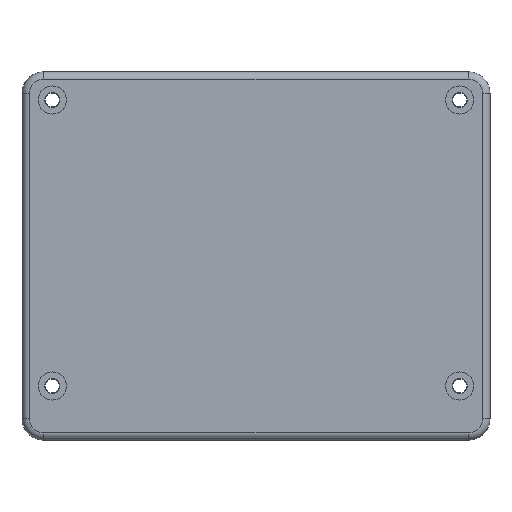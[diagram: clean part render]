
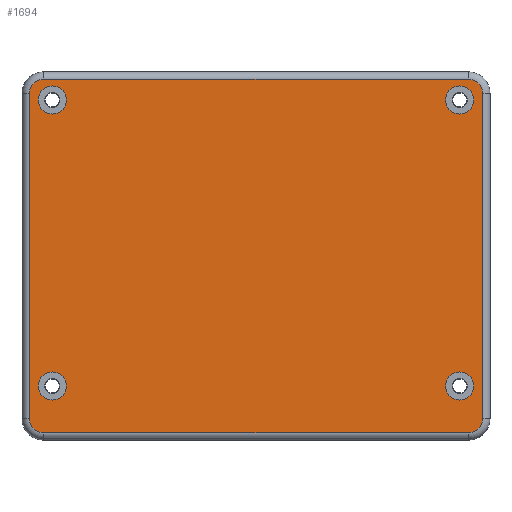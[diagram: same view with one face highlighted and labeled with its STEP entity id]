
A CAD part, front view. The second image highlights one B-rep face of the part: STEP entity #1694.
In plain terms, the highlighted planar face has unit normal (0, -1, 0).
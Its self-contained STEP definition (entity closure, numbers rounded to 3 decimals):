
#2=DIRECTION('',(1.,0.,0.));
#3=VECTOR('',#2,98.);
#4=CARTESIAN_POINT('',(-49.,-16.5,-40.8));
#5=LINE('',#4,#3);
#6=CARTESIAN_POINT('',(-49.,-16.5,-37.5));
#7=DIRECTION('',(0.,-1.,0.));
#8=DIRECTION('',(-1.,0.,0.));
#9=AXIS2_PLACEMENT_3D('',#6,#7,#8);
#11=DIRECTION('',(0.,0.,-1.));
#12=VECTOR('',#11,75.);
#13=CARTESIAN_POINT('',(-52.3,-16.5,37.5));
#14=LINE('',#13,#12);
#15=CARTESIAN_POINT('',(-49.,-16.5,37.5));
#16=DIRECTION('',(0.,-1.,0.));
#17=DIRECTION('',(0.,0.,1.));
#18=AXIS2_PLACEMENT_3D('',#15,#16,#17);
#20=DIRECTION('',(-1.,0.,0.));
#21=VECTOR('',#20,98.);
#22=CARTESIAN_POINT('',(49.,-16.5,40.8));
#23=LINE('',#22,#21);
#24=CARTESIAN_POINT('',(49.,-16.5,37.5));
#25=DIRECTION('',(0.,-1.,0.));
#26=DIRECTION('',(1.,0.,0.));
#27=AXIS2_PLACEMENT_3D('',#24,#25,#26);
#29=DIRECTION('',(0.,0.,1.));
#30=VECTOR('',#29,75.);
#31=CARTESIAN_POINT('',(52.3,-16.5,-37.5));
#32=LINE('',#31,#30);
#33=CARTESIAN_POINT('',(49.,-16.5,-37.5));
#34=DIRECTION('',(0.,-1.,0.));
#35=DIRECTION('',(0.,0.,-1.));
#36=AXIS2_PLACEMENT_3D('',#33,#34,#35);
#38=CARTESIAN_POINT('',(-47.,-16.5,-30.));
#39=DIRECTION('',(0.,-1.,0.));
#40=DIRECTION('',(-1.,0.,0.));
#41=AXIS2_PLACEMENT_3D('',#38,#39,#40);
#43=CARTESIAN_POINT('',(-47.,-16.5,-30.));
#44=DIRECTION('',(0.,-1.,0.));
#45=DIRECTION('',(1.,0.,0.));
#46=AXIS2_PLACEMENT_3D('',#43,#44,#45);
#48=CARTESIAN_POINT('',(47.,-16.5,-30.));
#49=DIRECTION('',(0.,-1.,0.));
#50=DIRECTION('',(-1.,0.,0.));
#51=AXIS2_PLACEMENT_3D('',#48,#49,#50);
#53=CARTESIAN_POINT('',(47.,-16.5,-30.));
#54=DIRECTION('',(0.,-1.,0.));
#55=DIRECTION('',(1.,0.,0.));
#56=AXIS2_PLACEMENT_3D('',#53,#54,#55);
#58=CARTESIAN_POINT('',(47.,-16.5,36.));
#59=DIRECTION('',(0.,-1.,0.));
#60=DIRECTION('',(-1.,0.,0.));
#61=AXIS2_PLACEMENT_3D('',#58,#59,#60);
#63=CARTESIAN_POINT('',(47.,-16.5,36.));
#64=DIRECTION('',(0.,-1.,0.));
#65=DIRECTION('',(1.,0.,0.));
#66=AXIS2_PLACEMENT_3D('',#63,#64,#65);
#68=CARTESIAN_POINT('',(-47.,-16.5,36.));
#69=DIRECTION('',(0.,-1.,0.));
#70=DIRECTION('',(-1.,0.,0.));
#71=AXIS2_PLACEMENT_3D('',#68,#69,#70);
#73=CARTESIAN_POINT('',(-47.,-16.5,36.));
#74=DIRECTION('',(0.,-1.,0.));
#75=DIRECTION('',(1.,0.,0.));
#76=AXIS2_PLACEMENT_3D('',#73,#74,#75);
#1342=CARTESIAN_POINT('',(-49.,-16.5,-40.8));
#1343=CARTESIAN_POINT('',(49.,-16.5,-40.8));
#1344=VERTEX_POINT('',#1342);
#1345=VERTEX_POINT('',#1343);
#1350=CARTESIAN_POINT('',(52.3,-16.5,-37.5));
#1351=VERTEX_POINT('',#1350);
#1354=CARTESIAN_POINT('',(52.3,-16.5,37.5));
#1355=VERTEX_POINT('',#1354);
#1358=CARTESIAN_POINT('',(49.,-16.5,40.8));
#1359=VERTEX_POINT('',#1358);
#1362=CARTESIAN_POINT('',(-49.,-16.5,40.8));
#1363=VERTEX_POINT('',#1362);
#1366=CARTESIAN_POINT('',(-52.3,-16.5,37.5));
#1367=VERTEX_POINT('',#1366);
#1370=CARTESIAN_POINT('',(-52.3,-16.5,-37.5));
#1371=VERTEX_POINT('',#1370);
#1465=CARTESIAN_POINT('',(-50.25,-16.5,-30.));
#1466=CARTESIAN_POINT('',(-43.75,-16.5,-30.));
#1467=VERTEX_POINT('',#1465);
#1468=VERTEX_POINT('',#1466);
#1469=CARTESIAN_POINT('',(43.75,-16.5,-30.));
#1470=CARTESIAN_POINT('',(50.25,-16.5,-30.));
#1471=VERTEX_POINT('',#1469);
#1472=VERTEX_POINT('',#1470);
#1473=CARTESIAN_POINT('',(43.75,-16.5,36.));
#1474=CARTESIAN_POINT('',(50.25,-16.5,36.));
#1475=VERTEX_POINT('',#1473);
#1476=VERTEX_POINT('',#1474);
#1477=CARTESIAN_POINT('',(-50.25,-16.5,36.));
#1478=CARTESIAN_POINT('',(-43.75,-16.5,36.));
#1479=VERTEX_POINT('',#1477);
#1480=VERTEX_POINT('',#1478);
#1647=CARTESIAN_POINT('',(0.,-16.5,0.));
#1648=DIRECTION('',(0.,1.,0.));
#1649=DIRECTION('',(1.,0.,0.));
#1650=AXIS2_PLACEMENT_3D('',#1647,#1648,#1649);
#1651=PLANE('',#1650);
#1653=ORIENTED_EDGE('',*,*,#1652,.F.);
#1655=ORIENTED_EDGE('',*,*,#1654,.F.);
#1657=ORIENTED_EDGE('',*,*,#1656,.F.);
#1659=ORIENTED_EDGE('',*,*,#1658,.F.);
#1661=ORIENTED_EDGE('',*,*,#1660,.F.);
#1663=ORIENTED_EDGE('',*,*,#1662,.F.);
#1665=ORIENTED_EDGE('',*,*,#1664,.F.);
#1667=ORIENTED_EDGE('',*,*,#1666,.F.);
#1668=EDGE_LOOP('',(#1653,#1655,#1657,#1659,#1661,#1663,#1665,#1667));
#1669=FACE_OUTER_BOUND('',#1668,.F.);
#1671=ORIENTED_EDGE('',*,*,#1670,.T.);
#1673=ORIENTED_EDGE('',*,*,#1672,.T.);
#1674=EDGE_LOOP('',(#1671,#1673));
#1675=FACE_BOUND('',#1674,.F.);
#1677=ORIENTED_EDGE('',*,*,#1676,.T.);
#1679=ORIENTED_EDGE('',*,*,#1678,.T.);
#1680=EDGE_LOOP('',(#1677,#1679));
#1681=FACE_BOUND('',#1680,.F.);
#1683=ORIENTED_EDGE('',*,*,#1682,.T.);
#1685=ORIENTED_EDGE('',*,*,#1684,.T.);
#1686=EDGE_LOOP('',(#1683,#1685));
#1687=FACE_BOUND('',#1686,.F.);
#1689=ORIENTED_EDGE('',*,*,#1688,.T.);
#1691=ORIENTED_EDGE('',*,*,#1690,.T.);
#1692=EDGE_LOOP('',(#1689,#1691));
#1693=FACE_BOUND('',#1692,.F.);
#1694=ADVANCED_FACE('',(#1669,#1675,#1681,#1687,#1693),#1651,.F.);
#10=CIRCLE('',#9,3.3);
#19=CIRCLE('',#18,3.3);
#28=CIRCLE('',#27,3.3);
#37=CIRCLE('',#36,3.3);
#42=CIRCLE('',#41,3.25);
#47=CIRCLE('',#46,3.25);
#52=CIRCLE('',#51,3.25);
#57=CIRCLE('',#56,3.25);
#62=CIRCLE('',#61,3.25);
#67=CIRCLE('',#66,3.25);
#72=CIRCLE('',#71,3.25);
#77=CIRCLE('',#76,3.25);
#1652=EDGE_CURVE('',#1344,#1345,#5,.T.);
#1654=EDGE_CURVE('',#1371,#1344,#10,.T.);
#1656=EDGE_CURVE('',#1367,#1371,#14,.T.);
#1658=EDGE_CURVE('',#1363,#1367,#19,.T.);
#1660=EDGE_CURVE('',#1359,#1363,#23,.T.);
#1662=EDGE_CURVE('',#1355,#1359,#28,.T.);
#1664=EDGE_CURVE('',#1351,#1355,#32,.T.);
#1666=EDGE_CURVE('',#1345,#1351,#37,.T.);
#1670=EDGE_CURVE('',#1467,#1468,#42,.T.);
#1672=EDGE_CURVE('',#1468,#1467,#47,.T.);
#1676=EDGE_CURVE('',#1471,#1472,#52,.T.);
#1678=EDGE_CURVE('',#1472,#1471,#57,.T.);
#1682=EDGE_CURVE('',#1475,#1476,#62,.T.);
#1684=EDGE_CURVE('',#1476,#1475,#67,.T.);
#1688=EDGE_CURVE('',#1479,#1480,#72,.T.);
#1690=EDGE_CURVE('',#1480,#1479,#77,.T.);
